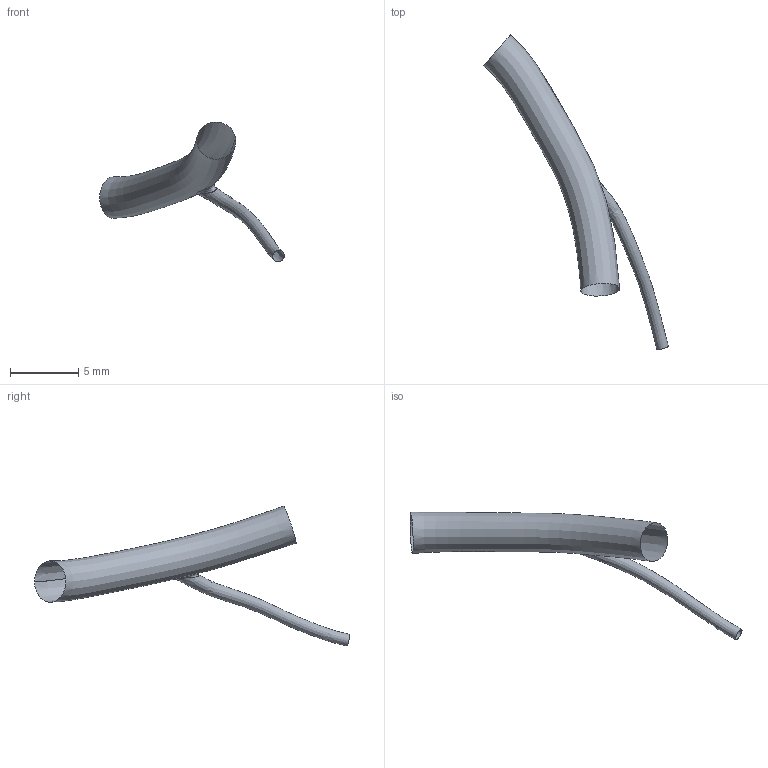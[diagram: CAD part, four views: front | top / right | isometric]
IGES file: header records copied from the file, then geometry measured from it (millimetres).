
Global section: file name: C:\Documents and Settings\Administrator\Desktop\FDA-Pig\Domestic RCA\Pig_000006\rv.ed.igs; native system: Rhinoceros ( May 19 2006 ); preprocessor: Trout Lake IGES 012 May 19 2006; date: 111205.185411; units: centimetre
Bounding box: 13.5 x 23.03 x 10.23 mm (x, y, z)
Surface area: 223 mm2 (no closed solid volume)
Topology: 0 solids, 0 shells, 3 faces, 37 edges, 34 vertices
Faces by surface type: bspline 3
